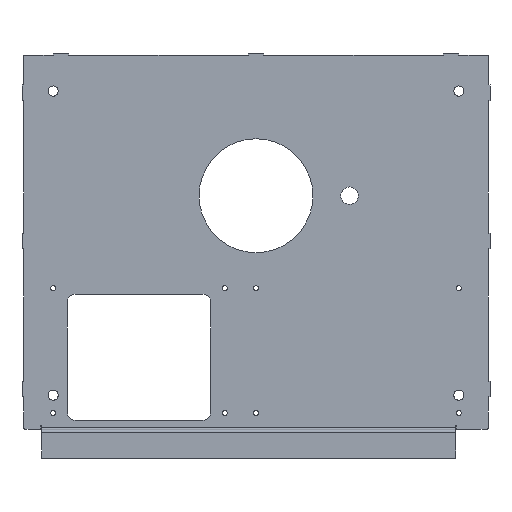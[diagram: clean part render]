
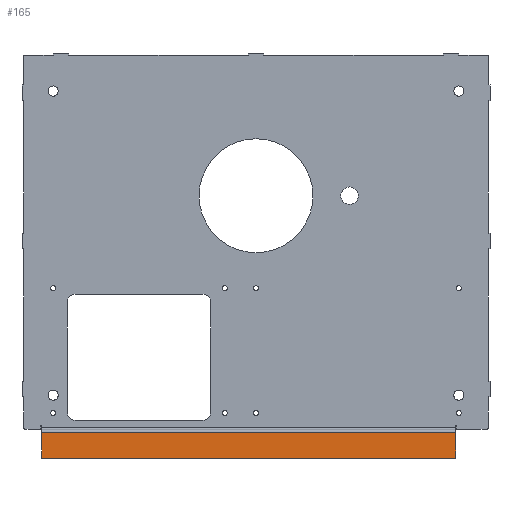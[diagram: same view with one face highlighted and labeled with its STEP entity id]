
A CAD part, front view. The second image highlights one B-rep face of the part: STEP entity #165.
In plain terms, the highlighted planar face has unit normal (0, -1, 0).
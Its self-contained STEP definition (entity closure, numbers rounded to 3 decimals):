
#34 = AXIS2_PLACEMENT_3D ( 'NONE', #1494, #2393, #1272 ) ;
#140 = VERTEX_POINT ( 'NONE', #1918 ) ;
#151 = ORIENTED_EDGE ( 'NONE', *, *, #2346, .F. ) ;
#165 = ADVANCED_FACE ( 'NONE', ( #362 ), #1904, .F. ) ;
#236 = LINE ( 'NONE', #1337, #1987 ) ;
#252 = ORIENTED_EDGE ( 'NONE', *, *, #1710, .T. ) ;
#336 = EDGE_CURVE ( 'NONE', #2176, #636, #1976, .T. ) ;
#362 = FACE_OUTER_BOUND ( 'NONE', #994, .T. ) ;
#385 = CARTESIAN_POINT ( 'NONE',  ( 256., -31., -483.5 ) ) ;
#428 = ORIENTED_EDGE ( 'NONE', *, *, #2711, .T. ) ;
#636 = VERTEX_POINT ( 'NONE', #672 ) ;
#672 = CARTESIAN_POINT ( 'NONE',  ( 256., -31., -516.5 ) ) ;
#747 = CARTESIAN_POINT ( 'NONE',  ( 256., -31., -483.5 ) ) ;
#957 = ORIENTED_EDGE ( 'NONE', *, *, #336, .T. ) ;
#994 = EDGE_LOOP ( 'NONE', ( #151, #252, #957, #428 ) ) ;
#1020 = DIRECTION ( 'NONE',  ( 0., 0., -1. ) ) ;
#1120 = DIRECTION ( 'NONE',  ( 0., 0., 1. ) ) ;
#1187 = DIRECTION ( 'NONE',  ( 1., 0., 0. ) ) ;
#1214 = LINE ( 'NONE', #747, #1470 ) ;
#1238 = LINE ( 'NONE', #2794, #2171 ) ;
#1272 = DIRECTION ( 'NONE',  ( 0., 0., 1. ) ) ;
#1337 = CARTESIAN_POINT ( 'NONE',  ( 256., -31., 0. ) ) ;
#1453 = VERTEX_POINT ( 'NONE', #385 ) ;
#1470 = VECTOR ( 'NONE', #1187, 1000. ) ;
#1494 = CARTESIAN_POINT ( 'NONE',  ( 0., -31., 0. ) ) ;
#1552 = DIRECTION ( 'NONE',  ( 1., 0., 0. ) ) ;
#1710 = EDGE_CURVE ( 'NONE', #140, #2176, #1238, .T. ) ;
#1904 = PLANE ( 'NONE',  #34 ) ;
#1918 = CARTESIAN_POINT ( 'NONE',  ( -275., -31., -483.5 ) ) ;
#1924 = CARTESIAN_POINT ( 'NONE',  ( -275., -31., -516.5 ) ) ;
#1976 = LINE ( 'NONE', #2872, #2215 ) ;
#1987 = VECTOR ( 'NONE', #1120, 1000. ) ;
#2171 = VECTOR ( 'NONE', #1020, 1000. ) ;
#2176 = VERTEX_POINT ( 'NONE', #1924 ) ;
#2215 = VECTOR ( 'NONE', #1552, 1000. ) ;
#2346 = EDGE_CURVE ( 'NONE', #140, #1453, #1214, .T. ) ;
#2393 = DIRECTION ( 'NONE',  ( 0., 1., 0. ) ) ;
#2711 = EDGE_CURVE ( 'NONE', #636, #1453, #236, .T. ) ;
#2794 = CARTESIAN_POINT ( 'NONE',  ( -275., -31., 0. ) ) ;
#2872 = CARTESIAN_POINT ( 'NONE',  ( 0., -31., -516.5 ) ) ;
